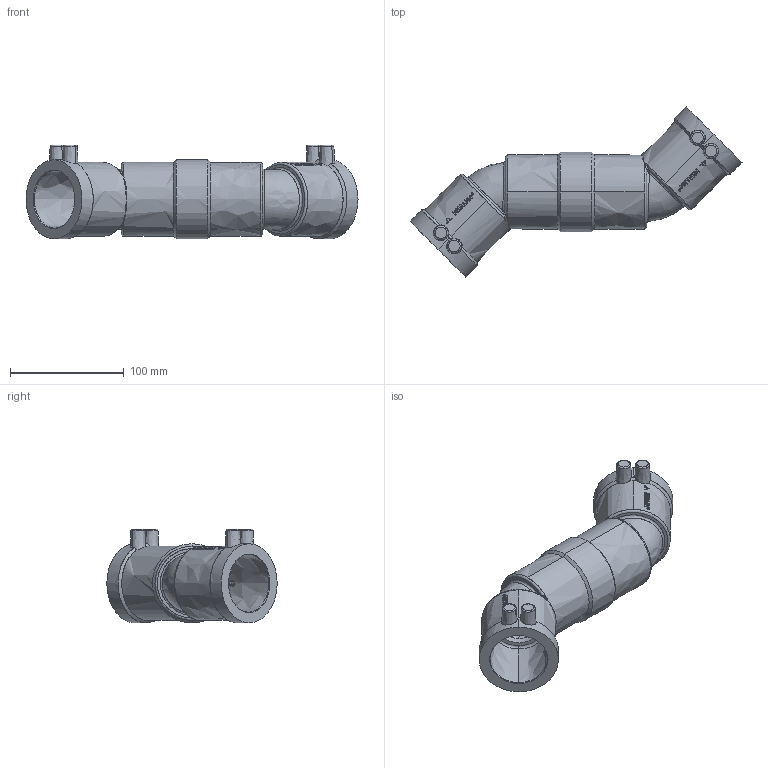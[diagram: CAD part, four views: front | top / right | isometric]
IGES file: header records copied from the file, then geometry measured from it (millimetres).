
Start section:  PTC IGES file: wet_d050_01.igs
Global section: file name: wet_d050_01.igs; native system: Pro/ENGINEER by Parametric Technology Corporation; preprocessor: 2011490; author: mtunjic; organization: Unknown; date: 20130812.102849; units: millimetre
Bounding box: 291.55 x 149.55 x 82.4 mm (x, y, z)
Surface area: 141279.8 mm2 (no closed solid volume)
Topology: 0 solids, 0 shells, 431 faces, 2148 edges, 2148 vertices
Faces by surface type: bspline 431
